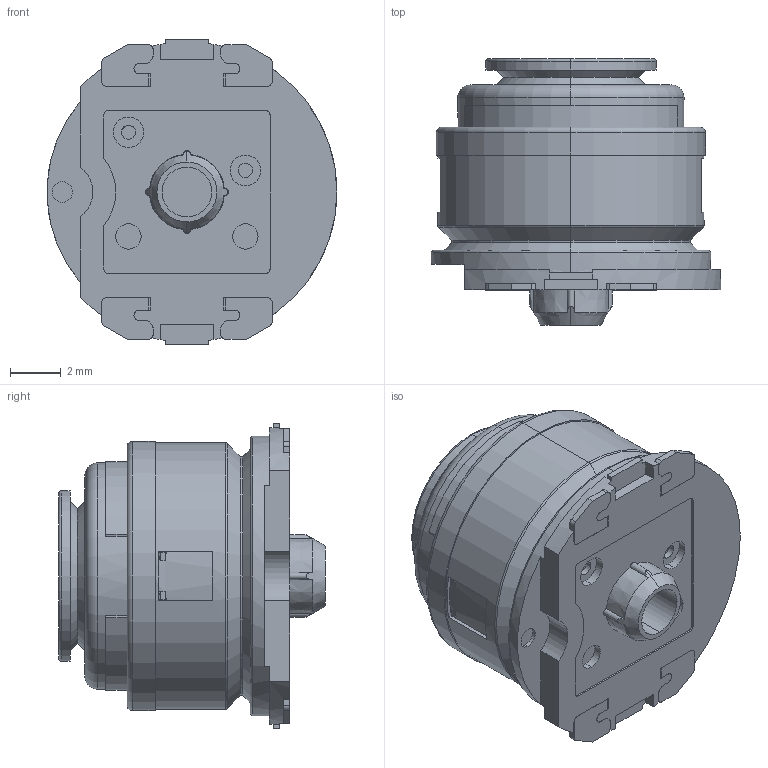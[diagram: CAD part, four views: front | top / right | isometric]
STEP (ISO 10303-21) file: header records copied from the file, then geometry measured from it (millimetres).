
FILE_DESCRIPTION(('Creo Elements/Direct Modeling STEP Export'),'2;1');
FILE_NAME('229AC.stp','2013-04-07T23:02:24',(''),(''),'Creo Elements/Direct Modeling STEP processor for AP214 (Solid Model)','Creo Elements/Direct Modeling 18.1C 24-Feb-2013 (C) Parametric Technology GmbH','');
FILE_SCHEMA(('AUTOMOTIVE_DESIGN { 1 0 10303 214 1 1 1 1 }'));
Length unit declared in the file: millimetre
Products named in the file (1): 13M229-01-101_HOUSING_CENTRAL_P.PRT
Bounding box: 11.4 x 10.49 x 12 mm (x, y, z)
Volume: 689.7 mm3; surface area: 567.7 mm2
Topology: 1 solids, 10 shells, 263 faces, 646 edges, 424 vertices
Faces by surface type: plane 149, cylinder 84, cone 18, torus 12
Entity records: 7715 total; most frequent: CARTESIAN_POINT 1506, ORIENTED_EDGE 1292, DIRECTION 1257, EDGE_CURVE 646, AXIS2_PLACEMENT_3D 443, VERTEX_POINT 424, VECTOR 371, LINE 371
